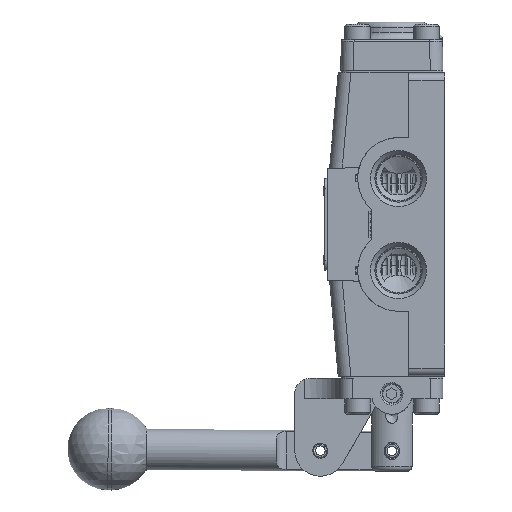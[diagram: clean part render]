
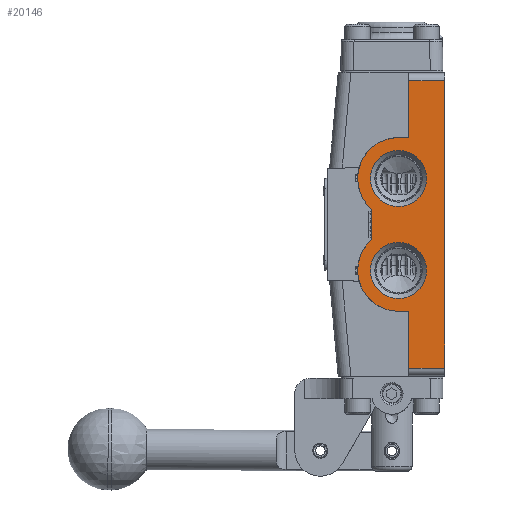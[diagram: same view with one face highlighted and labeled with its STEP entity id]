
A CAD part, left-side view. The second image highlights one B-rep face of the part: STEP entity #20146.
In plain terms, the highlighted planar face has unit normal (-1, 0, 0).
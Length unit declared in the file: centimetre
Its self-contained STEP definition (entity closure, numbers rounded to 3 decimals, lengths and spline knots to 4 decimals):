
#2239=FACE_OUTER_BOUND('',#7143,.T.);
#3403=LINE('',#36194,#4656);
#3424=LINE('',#36258,#4677);
#3427=LINE('',#36267,#4680);
#3439=LINE('',#36293,#4692);
#3474=LINE('',#36521,#4727);
#3486=LINE('',#36552,#4739);
#3492=LINE('',#36624,#4745);
#3497=LINE('',#36925,#4750);
#4656=VECTOR('',#26657,8.9205);
#4677=VECTOR('',#26708,1.1113);
#4680=VECTOR('',#26717,1.1113);
#4692=VECTOR('',#26741,1.7628);
#4727=VECTOR('',#26862,1.7628);
#4739=VECTOR('',#26890,0.3162);
#4745=VECTOR('',#26906,0.3162);
#4750=VECTOR('',#26975,0.9525);
#5440=PLANE('',#22173);
#5853=FACE_BOUND('',#7144,.T.);
#5854=FACE_BOUND('',#7145,.T.);
#7143=EDGE_LOOP('',(#17217,#17218,#17219,#17220,#17221,#17222,#17223,#17224,
#17225,#17226));
#7144=EDGE_LOOP('',(#17227));
#7145=EDGE_LOOP('',(#17228));
#8311=CIRCLE('',#22174,1.27);
#8312=CIRCLE('',#22175,1.27);
#8313=CIRCLE('',#22176,0.8731);
#8314=CIRCLE('',#22177,0.8731);
#9781=VERTEX_POINT('',#36191);
#9782=VERTEX_POINT('',#36193);
#9810=VERTEX_POINT('',#36257);
#9813=VERTEX_POINT('',#36265);
#9820=VERTEX_POINT('',#36289);
#9886=VERTEX_POINT('',#36519);
#9897=VERTEX_POINT('',#36550);
#9909=VERTEX_POINT('',#36623);
#9948=VERTEX_POINT('',#36922);
#9949=VERTEX_POINT('',#36924);
#9950=VERTEX_POINT('',#36927);
#9951=VERTEX_POINT('',#36929);
#12291=EDGE_CURVE('',#9782,#9781,#3403,.T.);
#12323=EDGE_CURVE('',#9782,#9810,#3424,.T.);
#12328=EDGE_CURVE('',#9781,#9813,#3427,.T.);
#12341=EDGE_CURVE('',#9810,#9820,#3439,.T.);
#12415=EDGE_CURVE('',#9886,#9813,#3474,.T.);
#12432=EDGE_CURVE('',#9897,#9886,#3486,.T.);
#12444=EDGE_CURVE('',#9820,#9909,#3492,.T.);
#12490=EDGE_CURVE('',#9948,#9897,#8311,.T.);
#12491=EDGE_CURVE('',#9949,#9948,#3497,.T.);
#12492=EDGE_CURVE('',#9909,#9949,#8312,.T.);
#12493=EDGE_CURVE('',#9950,#9950,#8313,.T.);
#12494=EDGE_CURVE('',#9951,#9951,#8314,.T.);
#17217=ORIENTED_EDGE('',*,*,#12341,.F.);
#17218=ORIENTED_EDGE('',*,*,#12323,.F.);
#17219=ORIENTED_EDGE('',*,*,#12291,.T.);
#17220=ORIENTED_EDGE('',*,*,#12328,.T.);
#17221=ORIENTED_EDGE('',*,*,#12415,.F.);
#17222=ORIENTED_EDGE('',*,*,#12432,.F.);
#17223=ORIENTED_EDGE('',*,*,#12490,.F.);
#17224=ORIENTED_EDGE('',*,*,#12491,.F.);
#17225=ORIENTED_EDGE('',*,*,#12492,.F.);
#17226=ORIENTED_EDGE('',*,*,#12444,.F.);
#17227=ORIENTED_EDGE('',*,*,#12493,.T.);
#17228=ORIENTED_EDGE('',*,*,#12494,.T.);
#20146=ADVANCED_FACE('',(#2239,#5853,#5854),#5440,.T.);
#22173=AXIS2_PLACEMENT_3D('',#36921,#26971,#26972);
#22174=AXIS2_PLACEMENT_3D('',#36923,#26973,#26974);
#22175=AXIS2_PLACEMENT_3D('',#36926,#26976,#26977);
#22176=AXIS2_PLACEMENT_3D('',#36928,#26978,#26979);
#22177=AXIS2_PLACEMENT_3D('',#36930,#26980,#26981);
#26657=DIRECTION('',(0.,0.,1.));
#26708=DIRECTION('',(0.,1.,0.));
#26717=DIRECTION('',(0.,1.,0.));
#26741=DIRECTION('',(0.,0.,1.));
#26862=DIRECTION('',(0.,0.,1.));
#26890=DIRECTION('',(0.,-1.,0.));
#26906=DIRECTION('',(0.,1.,0.));
#26971=DIRECTION('center_axis',(-1.,0.,0.));
#26972=DIRECTION('ref_axis',(0.,0.,1.));
#26973=DIRECTION('center_axis',(1.,0.,0.));
#26974=DIRECTION('ref_axis',(0.,-0.663,0.749));
#26975=DIRECTION('',(0.,0.,1.));
#26976=DIRECTION('center_axis',(1.,0.,0.));
#26977=DIRECTION('ref_axis',(0.,0.,1.));
#26978=DIRECTION('center_axis',(1.,0.,0.));
#26979=DIRECTION('ref_axis',(0.,-1.,0.));
#26980=DIRECTION('center_axis',(1.,0.,0.));
#26981=DIRECTION('ref_axis',(0.,-1.,0.));
#36191=CARTESIAN_POINT('',(-2.8575,-1.6358,4.4602));
#36193=CARTESIAN_POINT('',(-2.8575,-1.6358,-4.4602));
#36194=CARTESIAN_POINT('',(-2.8575,-1.6358,-4.4602));
#36257=CARTESIAN_POINT('',(-2.8575,-0.5245,-4.4602));
#36258=CARTESIAN_POINT('',(-2.8575,-1.6358,-4.4602));
#36265=CARTESIAN_POINT('',(-2.8575,-0.5245,4.4602));
#36267=CARTESIAN_POINT('',(-2.8575,-1.6358,4.4602));
#36289=CARTESIAN_POINT('',(-2.8575,-0.5245,-2.6975));
#36293=CARTESIAN_POINT('',(-2.8575,-0.5245,-4.4602));
#36519=CARTESIAN_POINT('',(-2.8575,-0.5245,2.6975));
#36521=CARTESIAN_POINT('',(-2.8575,-0.5245,-4.4602));
#36550=CARTESIAN_POINT('',(-2.8575,-0.2083,2.6975));
#36552=CARTESIAN_POINT('',(-2.8575,-0.9614,2.6975));
#36623=CARTESIAN_POINT('',(-2.8575,-0.2083,-2.6975));
#36624=CARTESIAN_POINT('',(-2.8575,-0.2477,-2.6975));
#36921=CARTESIAN_POINT('Origin',(-2.8575,-1.6358,-4.4602));
#36922=CARTESIAN_POINT('',(-2.8575,0.6332,0.4763));
#36923=CARTESIAN_POINT('Origin',(-2.8575,-0.2083,1.4275));
#36924=CARTESIAN_POINT('',(-2.8575,0.6332,-0.4763));
#36925=CARTESIAN_POINT('',(-2.8575,0.6332,0.2381));
#36926=CARTESIAN_POINT('Origin',(-2.8575,-0.2083,-1.4275));
#36927=CARTESIAN_POINT('',(-2.8575,-1.0814,-1.4275));
#36928=CARTESIAN_POINT('Origin',(-2.8575,-0.2083,-1.4275));
#36929=CARTESIAN_POINT('',(-2.8575,-1.0814,1.4275));
#36930=CARTESIAN_POINT('Origin',(-2.8575,-0.2083,1.4275));
